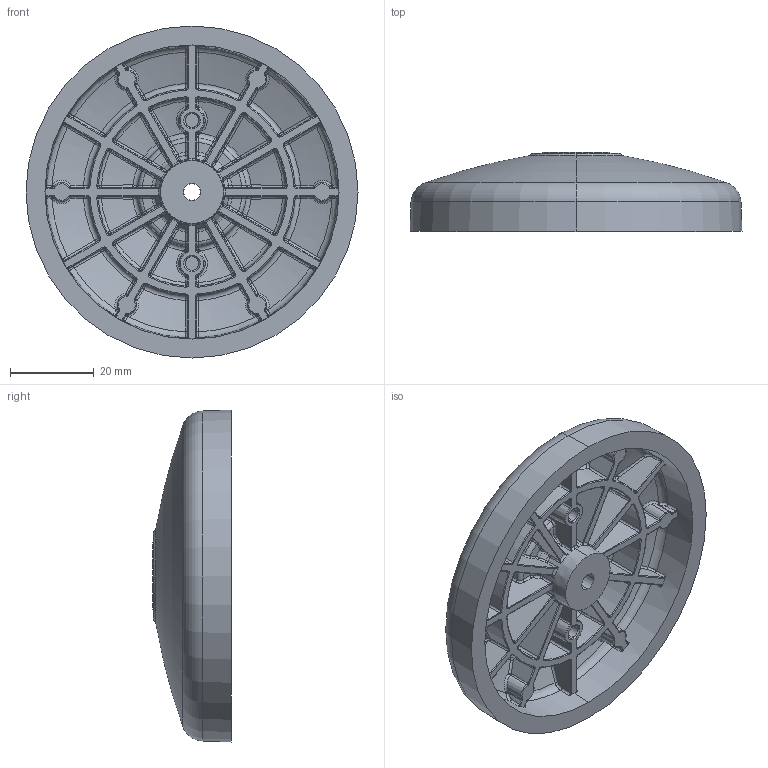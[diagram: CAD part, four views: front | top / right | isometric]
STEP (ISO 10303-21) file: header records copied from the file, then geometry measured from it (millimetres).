
FILE_DESCRIPTION(('STEP AP214'),'1');
FILE_NAME('C:/TPO v2/SharedFS/Outgoing/fath_098d080zs.stp','2016-05-25T10:26:36',('TraceParts'),('TraceParts S.A.'),'Spatial InterOp 3D',' ',' ');
FILE_SCHEMA(('automotive_design'));
Length unit declared in the file: millimetre
Products named in the file (2): 098d080zs|NAUO1#098d080zr_098 d 080 zr;Schnitt-Linear austragen4; 098d080zs|NAUO2#098xd2_Standard;F2-0,5x30
Bounding box: 79.39 x 18.86 x 79.39 mm (x, y, z)
Volume: 31888.9 mm3; surface area: 22136.1 mm2
Topology: 2 solids, 2 shells, 1095 faces, 2548 edges, 1440 vertices
Faces by surface type: bspline 552, torus 200, cylinder 98, plane 87, cone 84, sphere 74
Entity records: 50850 total; most frequent: CARTESIAN_POINT 21059, ORIENTED_EDGE 5048, DIRECTION 3656, EDGE_CURVE 2524, AXIS2_PLACEMENT_3D 1719, VERTEX_POINT 1440, CIRCLE 1174, B_SPLINE_CURVE_WITH_KNOTS 1132
